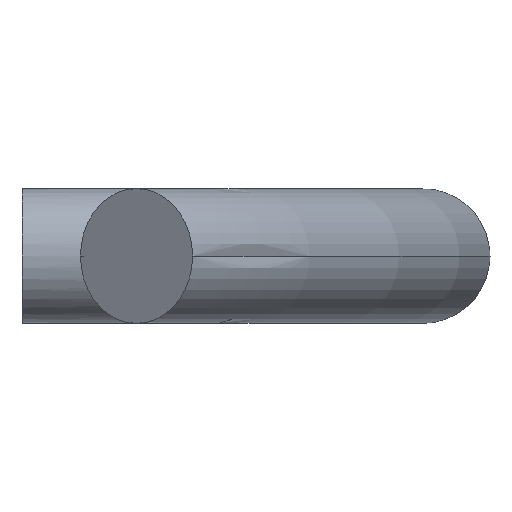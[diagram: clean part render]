
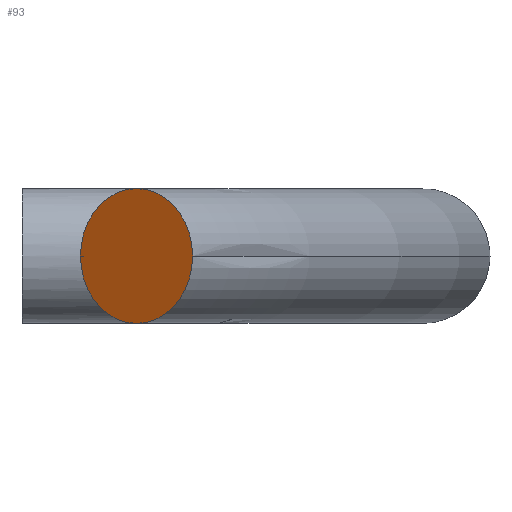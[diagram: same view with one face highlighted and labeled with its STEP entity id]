
A CAD part, left-side view. The second image highlights one B-rep face of the part: STEP entity #93.
In plain terms, the highlighted planar face has unit normal (-0.832, 0.555, 0).
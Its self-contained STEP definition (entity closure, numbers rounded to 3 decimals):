
#93 = ADVANCED_FACE( '', ( #134 ), #135, .F. );
#134 = FACE_OUTER_BOUND( '', #176, .T. );
#135 = PLANE( '', #177 );
#176 = EDGE_LOOP( '', ( #328, #329, #330 ) );
#177 = AXIS2_PLACEMENT_3D( '', #331, #332, #333 );
#328 = ORIENTED_EDGE( '', *, *, #387, .F. );
#329 = ORIENTED_EDGE( '', *, *, #386, .F. );
#330 = ORIENTED_EDGE( '', *, *, #351, .F. );
#331 = CARTESIAN_POINT( '', ( -8.782, -6.797, 0. ) );
#332 = DIRECTION( '', ( 0.832, -0.555, 0. ) );
#333 = DIRECTION( '', ( 0., 0., -1. ) );
#351 = EDGE_CURVE( '', #411, #391, #413, .T. );
#386 = EDGE_CURVE( '', #391, #468, #469, .T. );
#387 = EDGE_CURVE( '', #468, #411, #470, .T. );
#391 = VERTEX_POINT( '', #475 );
#411 = VERTEX_POINT( '', #581 );
#413 = CIRCLE( '', #583, 4. );
#468 = VERTEX_POINT( '', #732 );
#469 = CIRCLE( '', #733, 4. );
#470 = CIRCLE( '', #734, 4. );
#475 = CARTESIAN_POINT( '', ( -11.002, -10.124, 0. ) );
#581 = CARTESIAN_POINT( '', ( -6.562, -3.469, 0. ) );
#583 = AXIS2_PLACEMENT_3D( '', #753, #754, #755 );
#732 = CARTESIAN_POINT( '', ( -8.782, -6.797, -4. ) );
#733 = AXIS2_PLACEMENT_3D( '', #824, #825, #826 );
#734 = AXIS2_PLACEMENT_3D( '', #827, #828, #829 );
#753 = CARTESIAN_POINT( '', ( -8.782, -6.797, 0. ) );
#754 = DIRECTION( '', ( 0.832, -0.555, 0. ) );
#755 = DIRECTION( '', ( 0., 0., -1. ) );
#824 = CARTESIAN_POINT( '', ( -8.782, -6.797, 0. ) );
#825 = DIRECTION( '', ( 0.832, -0.555, 0. ) );
#826 = DIRECTION( '', ( 0., 0., -1. ) );
#827 = CARTESIAN_POINT( '', ( -8.782, -6.797, 0. ) );
#828 = DIRECTION( '', ( 0.832, -0.555, 0. ) );
#829 = DIRECTION( '', ( 0., 0., -1. ) );
